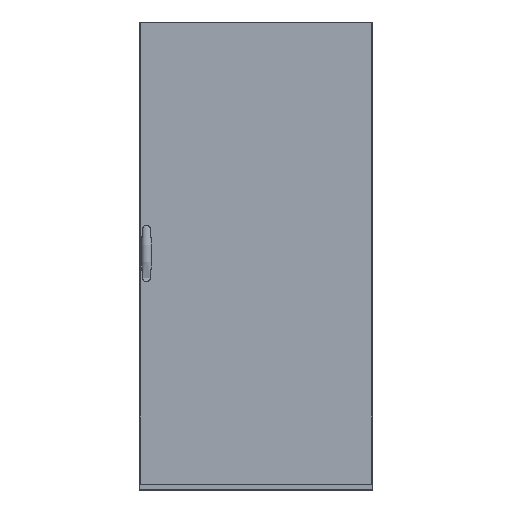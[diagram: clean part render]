
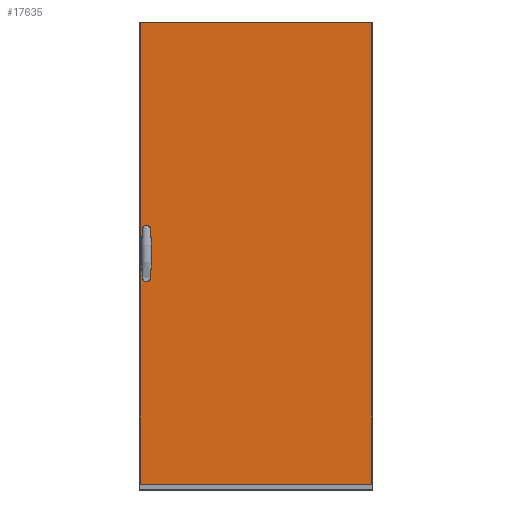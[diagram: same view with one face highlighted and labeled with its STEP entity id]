
A CAD part, top view. The second image highlights one B-rep face of the part: STEP entity #17635.
In plain terms, the highlighted planar face has unit normal (0, 0, 1) as drawn and (0, 0, -1) by its records, which use the part's own axes.
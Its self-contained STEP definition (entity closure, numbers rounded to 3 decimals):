
#275=CIRCLE('',#19622,2.6);
#276=CIRCLE('',#19623,2.6);
#2351=ORIENTED_EDGE('',*,*,#6413,.T.);
#2352=ORIENTED_EDGE('',*,*,#6414,.T.);
#2353=ORIENTED_EDGE('',*,*,#6415,.T.);
#2354=ORIENTED_EDGE('',*,*,#6416,.T.);
#2355=ORIENTED_EDGE('',*,*,#6417,.T.);
#2356=ORIENTED_EDGE('',*,*,#6418,.T.);
#2357=ORIENTED_EDGE('',*,*,#6419,.T.);
#2358=ORIENTED_EDGE('',*,*,#6420,.T.);
#2359=ORIENTED_EDGE('',*,*,#6421,.T.);
#2360=ORIENTED_EDGE('',*,*,#6422,.T.);
#2361=ORIENTED_EDGE('',*,*,#6423,.T.);
#2362=ORIENTED_EDGE('',*,*,#6424,.T.);
#2363=ORIENTED_EDGE('',*,*,#6425,.T.);
#2364=ORIENTED_EDGE('',*,*,#6426,.T.);
#2365=ORIENTED_EDGE('',*,*,#6427,.T.);
#2366=ORIENTED_EDGE('',*,*,#6428,.T.);
#2367=ORIENTED_EDGE('',*,*,#6429,.T.);
#2368=ORIENTED_EDGE('',*,*,#6430,.F.);
#2369=ORIENTED_EDGE('',*,*,#6431,.F.);
#2370=ORIENTED_EDGE('',*,*,#6432,.T.);
#2371=ORIENTED_EDGE('',*,*,#6433,.T.);
#2372=ORIENTED_EDGE('',*,*,#6434,.T.);
#6413=EDGE_CURVE('',#8598,#8599,#10440,.T.);
#6414=EDGE_CURVE('',#8599,#8600,#10441,.T.);
#6415=EDGE_CURVE('',#8600,#8601,#10442,.T.);
#6416=EDGE_CURVE('',#8601,#8602,#10443,.T.);
#6417=EDGE_CURVE('',#8602,#8603,#10444,.T.);
#6418=EDGE_CURVE('',#8603,#8604,#10445,.T.);
#6419=EDGE_CURVE('',#8604,#8605,#10446,.T.);
#6420=EDGE_CURVE('',#8605,#8606,#10447,.T.);
#6421=EDGE_CURVE('',#8606,#8607,#10448,.T.);
#6422=EDGE_CURVE('',#8607,#8608,#10449,.T.);
#6423=EDGE_CURVE('',#8608,#8609,#10450,.T.);
#6424=EDGE_CURVE('',#8609,#8610,#10451,.T.);
#6425=EDGE_CURVE('',#8610,#8611,#10452,.T.);
#6426=EDGE_CURVE('',#8611,#8612,#10453,.T.);
#6427=EDGE_CURVE('',#8612,#8613,#10454,.T.);
#6428=EDGE_CURVE('',#8613,#8598,#10455,.T.);
#6429=EDGE_CURVE('',#8614,#8615,#10456,.T.);
#6430=EDGE_CURVE('',#8616,#8615,#10457,.T.);
#6431=EDGE_CURVE('',#8617,#8616,#10458,.T.);
#6432=EDGE_CURVE('',#8617,#8614,#10459,.T.);
#6433=EDGE_CURVE('',#8618,#8618,#275,.T.);
#6434=EDGE_CURVE('',#8619,#8619,#276,.T.);
#8598=VERTEX_POINT('',#27115);
#8599=VERTEX_POINT('',#27116);
#8600=VERTEX_POINT('',#27118);
#8601=VERTEX_POINT('',#27120);
#8602=VERTEX_POINT('',#27122);
#8603=VERTEX_POINT('',#27124);
#8604=VERTEX_POINT('',#27126);
#8605=VERTEX_POINT('',#27128);
#8606=VERTEX_POINT('',#27130);
#8607=VERTEX_POINT('',#27132);
#8608=VERTEX_POINT('',#27134);
#8609=VERTEX_POINT('',#27136);
#8610=VERTEX_POINT('',#27138);
#8611=VERTEX_POINT('',#27140);
#8612=VERTEX_POINT('',#27142);
#8613=VERTEX_POINT('',#27144);
#8614=VERTEX_POINT('',#27147);
#8615=VERTEX_POINT('',#27148);
#8616=VERTEX_POINT('',#27150);
#8617=VERTEX_POINT('',#27152);
#8618=VERTEX_POINT('',#27155);
#8619=VERTEX_POINT('',#27157);
#10440=LINE('',#27114,#12620);
#10441=LINE('',#27117,#12621);
#10442=LINE('',#27119,#12622);
#10443=LINE('',#27121,#12623);
#10444=LINE('',#27123,#12624);
#10445=LINE('',#27125,#12625);
#10446=LINE('',#27127,#12626);
#10447=LINE('',#27129,#12627);
#10448=LINE('',#27131,#12628);
#10449=LINE('',#27133,#12629);
#10450=LINE('',#27135,#12630);
#10451=LINE('',#27137,#12631);
#10452=LINE('',#27139,#12632);
#10453=LINE('',#27141,#12633);
#10454=LINE('',#27143,#12634);
#10455=LINE('',#27145,#12635);
#10456=LINE('',#27146,#12636);
#10457=LINE('',#27149,#12637);
#10458=LINE('',#27151,#12638);
#10459=LINE('',#27153,#12639);
#12620=VECTOR('',#22164,1000.);
#12621=VECTOR('',#22165,1000.);
#12622=VECTOR('',#22166,1000.);
#12623=VECTOR('',#22167,1000.);
#12624=VECTOR('',#22168,1000.);
#12625=VECTOR('',#22169,1000.);
#12626=VECTOR('',#22170,1000.);
#12627=VECTOR('',#22171,1000.);
#12628=VECTOR('',#22172,1000.);
#12629=VECTOR('',#22173,1000.);
#12630=VECTOR('',#22174,1000.);
#12631=VECTOR('',#22175,1000.);
#12632=VECTOR('',#22176,1000.);
#12633=VECTOR('',#22177,1000.);
#12634=VECTOR('',#22178,1000.);
#12635=VECTOR('',#22179,1000.);
#12636=VECTOR('',#22180,1000.);
#12637=VECTOR('',#22181,1000.);
#12638=VECTOR('',#22182,1000.);
#12639=VECTOR('',#22183,1000.);
#14513=EDGE_LOOP('',(#2351,#2352,#2353,#2354,#2355,#2356,#2357,#2358,#2359,
#2360,#2361,#2362,#2363,#2364,#2365,#2366));
#14514=EDGE_LOOP('',(#2367,#2368,#2369,#2370));
#14515=EDGE_LOOP('',(#2371));
#14516=EDGE_LOOP('',(#2372));
#15711=FACE_BOUND('',#14513,.T.);
#15712=FACE_BOUND('',#14514,.T.);
#15713=FACE_BOUND('',#14515,.T.);
#15714=FACE_BOUND('',#14516,.T.);
#16739=PLANE('',#19621);
#17635=ADVANCED_FACE('',(#15711,#15712,#15713,#15714),#16739,.F.);
#19621=AXIS2_PLACEMENT_3D('',#27113,#22162,#22163);
#19622=AXIS2_PLACEMENT_3D('',#27154,#22184,#22185);
#19623=AXIS2_PLACEMENT_3D('',#27156,#22186,#22187);
#22162=DIRECTION('',(0.,0.,1.));
#22163=DIRECTION('',(1.,0.,0.));
#22164=DIRECTION('',(0.,-1.,0.));
#22165=DIRECTION('',(0.342,-0.94,0.));
#22166=DIRECTION('',(1.,0.,0.));
#22167=DIRECTION('',(0.,1.,0.));
#22168=DIRECTION('',(1.,0.,0.));
#22169=DIRECTION('',(0.,-1.,0.));
#22170=DIRECTION('',(1.,0.,0.));
#22171=DIRECTION('',(0.342,0.94,0.));
#22172=DIRECTION('',(0.,1.,0.));
#22173=DIRECTION('',(-0.342,0.94,0.));
#22174=DIRECTION('',(-1.,0.,0.));
#22175=DIRECTION('',(0.,-1.,0.));
#22176=DIRECTION('',(-1.,0.,0.));
#22177=DIRECTION('',(0.,1.,0.));
#22178=DIRECTION('',(-1.,0.,0.));
#22179=DIRECTION('',(-0.342,-0.94,0.));
#22180=DIRECTION('',(-1.,0.,0.));
#22181=DIRECTION('',(0.,-1.,0.));
#22182=DIRECTION('',(-1.,0.,0.));
#22183=DIRECTION('',(0.,-1.,0.));
#22184=DIRECTION('',(0.,0.,1.));
#22185=DIRECTION('',(1.,0.,0.));
#22186=DIRECTION('',(0.,0.,1.));
#22187=DIRECTION('',(1.,0.,0.));
#27113=CARTESIAN_POINT('',(396.5,1582.,-16.8));
#27114=CARTESIAN_POINT('',(362.95,856.256,-16.8));
#27115=CARTESIAN_POINT('',(362.95,856.256,-16.8));
#27116=CARTESIAN_POINT('',(362.95,725.744,-16.8));
#27117=CARTESIAN_POINT('',(362.95,725.744,-16.8));
#27118=CARTESIAN_POINT('',(364.95,720.25,-16.8));
#27119=CARTESIAN_POINT('',(364.95,720.25,-16.8));
#27120=CARTESIAN_POINT('',(370.2,720.25,-16.8));
#27121=CARTESIAN_POINT('',(370.2,720.25,-16.8));
#27122=CARTESIAN_POINT('',(370.2,728.,-16.8));
#27123=CARTESIAN_POINT('',(370.2,728.,-16.8));
#27124=CARTESIAN_POINT('',(381.2,728.,-16.8));
#27125=CARTESIAN_POINT('',(381.2,728.,-16.8));
#27126=CARTESIAN_POINT('',(381.2,720.25,-16.8));
#27127=CARTESIAN_POINT('',(381.2,720.25,-16.8));
#27128=CARTESIAN_POINT('',(386.45,720.25,-16.8));
#27129=CARTESIAN_POINT('',(386.45,720.25,-16.8));
#27130=CARTESIAN_POINT('',(388.45,725.744,-16.8));
#27131=CARTESIAN_POINT('',(388.45,725.744,-16.8));
#27132=CARTESIAN_POINT('',(388.45,856.256,-16.8));
#27133=CARTESIAN_POINT('',(388.45,856.256,-16.8));
#27134=CARTESIAN_POINT('',(386.45,861.75,-16.8));
#27135=CARTESIAN_POINT('',(386.45,861.75,-16.8));
#27136=CARTESIAN_POINT('',(381.2,861.75,-16.8));
#27137=CARTESIAN_POINT('',(381.2,861.75,-16.8));
#27138=CARTESIAN_POINT('',(381.2,854.,-16.8));
#27139=CARTESIAN_POINT('',(381.2,854.,-16.8));
#27140=CARTESIAN_POINT('',(370.2,854.,-16.8));
#27141=CARTESIAN_POINT('',(370.2,854.,-16.8));
#27142=CARTESIAN_POINT('',(370.2,861.75,-16.8));
#27143=CARTESIAN_POINT('',(370.2,861.75,-16.8));
#27144=CARTESIAN_POINT('',(364.95,861.75,-16.8));
#27145=CARTESIAN_POINT('',(364.95,861.75,-16.8));
#27146=CARTESIAN_POINT('',(396.5,0.,-16.8));
#27147=CARTESIAN_POINT('',(396.5,0.,-16.8));
#27148=CARTESIAN_POINT('',(-396.5,0.,-16.8));
#27149=CARTESIAN_POINT('',(-396.5,1582.,-16.8));
#27150=CARTESIAN_POINT('',(-396.5,1582.,-16.8));
#27151=CARTESIAN_POINT('',(396.5,1582.,-16.8));
#27152=CARTESIAN_POINT('',(396.5,1582.,-16.8));
#27153=CARTESIAN_POINT('',(396.5,1582.,-16.8));
#27154=CARTESIAN_POINT('',(375.7,861.,-16.8));
#27155=CARTESIAN_POINT('',(378.3,861.,-16.8));
#27156=CARTESIAN_POINT('',(375.7,721.,-16.8));
#27157=CARTESIAN_POINT('',(378.3,721.,-16.8));
